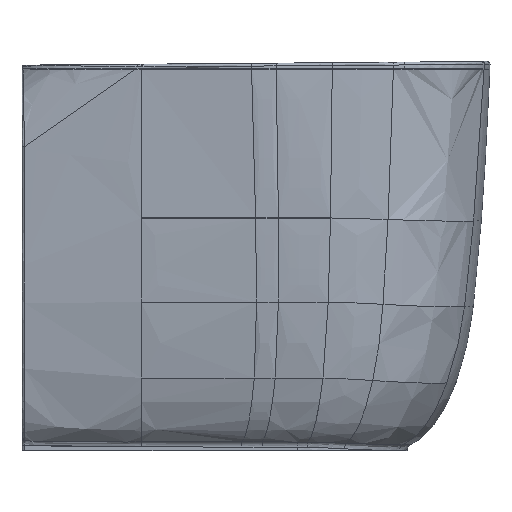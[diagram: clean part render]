
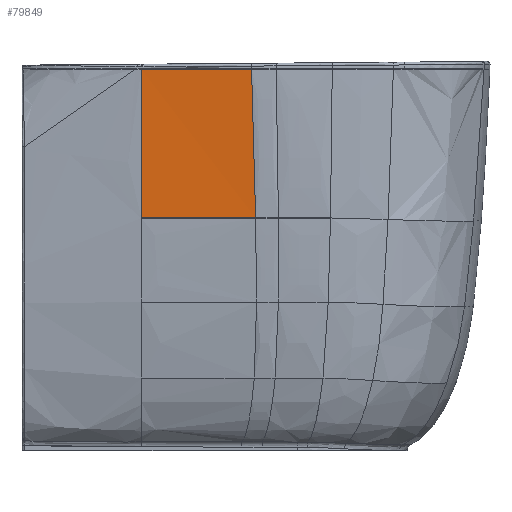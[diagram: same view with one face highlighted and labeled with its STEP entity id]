
A CAD part, front view. The second image highlights one B-rep face of the part: STEP entity #79849.
In plain terms, the highlighted free-form (B-spline) face has degree [5, 5] with [9, 6] control points.
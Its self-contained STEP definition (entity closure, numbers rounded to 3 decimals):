
#79743=CARTESIAN_POINT('Control Point',(250.,-180.,0.042)) ;
#79744=CARTESIAN_POINT('Control Point',(251.52,-179.83,-33.281)) ;
#79745=CARTESIAN_POINT('Control Point',(252.696,-179.24,-66.603)) ;
#79746=CARTESIAN_POINT('Control Point',(253.555,-178.215,-99.912)) ;
#79747=CARTESIAN_POINT('Control Point',(254.174,-176.833,-133.225)) ;
#79748=CARTESIAN_POINT('Control Point',(254.586,-175.089,-166.537)) ;
#79749=CARTESIAN_POINT('Control Point',(225.938,-179.612,0.042)) ;
#79750=CARTESIAN_POINT('Control Point',(227.812,-179.472,-33.281)) ;
#79751=CARTESIAN_POINT('Control Point',(229.341,-178.913,-66.603)) ;
#79752=CARTESIAN_POINT('Control Point',(230.554,-177.92,-99.912)) ;
#79753=CARTESIAN_POINT('Control Point',(231.526,-176.568,-133.225)) ;
#79754=CARTESIAN_POINT('Control Point',(232.293,-174.855,-166.537)) ;
#79755=CARTESIAN_POINT('Control Point',(201.886,-178.617,0.042)) ;
#79756=CARTESIAN_POINT('Control Point',(204.113,-178.557,-33.281)) ;
#79757=CARTESIAN_POINT('Control Point',(205.995,-178.077,-66.603)) ;
#79758=CARTESIAN_POINT('Control Point',(207.561,-177.163,-99.912)) ;
#79759=CARTESIAN_POINT('Control Point',(208.886,-175.89,-133.225)) ;
#79760=CARTESIAN_POINT('Control Point',(210.005,-174.257,-166.537)) ;
#79761=CARTESIAN_POINT('Control Point',(177.869,-177.014,0.042)) ;
#79762=CARTESIAN_POINT('Control Point',(180.446,-177.082,-33.281)) ;
#79763=CARTESIAN_POINT('Control Point',(182.679,-176.73,-66.603)) ;
#79764=CARTESIAN_POINT('Control Point',(184.594,-175.943,-99.912)) ;
#79765=CARTESIAN_POINT('Control Point',(186.269,-174.798,-133.225)) ;
#79766=CARTESIAN_POINT('Control Point',(187.739,-173.292,-166.537)) ;
#79767=CARTESIAN_POINT('Control Point',(141.915,-173.702,0.042)) ;
#79768=CARTESIAN_POINT('Control Point',(145.011,-174.034,-33.281)) ;
#79769=CARTESIAN_POINT('Control Point',(147.763,-173.945,-66.603)) ;
#79770=CARTESIAN_POINT('Control Point',(150.198,-173.423,-99.912)) ;
#79771=CARTESIAN_POINT('Control Point',(152.393,-172.542,-133.225)) ;
#79772=CARTESIAN_POINT('Control Point',(154.382,-171.3,-166.537)) ;
#79773=CARTESIAN_POINT('Control Point',(106.118,-169.044,0.042)) ;
#79774=CARTESIAN_POINT('Control Point',(109.722,-169.747,-33.281)) ;
#79775=CARTESIAN_POINT('Control Point',(112.981,-170.03,-66.603)) ;
#79776=CARTESIAN_POINT('Control Point',(115.923,-169.879,-99.912)) ;
#79777=CARTESIAN_POINT('Control Point',(118.624,-169.368,-133.225)) ;
#79778=CARTESIAN_POINT('Control Point',(121.12,-168.497,-166.537)) ;
#79779=CARTESIAN_POINT('Control Point',(94.186,-167.492,0.042)) ;
#79780=CARTESIAN_POINT('Control Point',(97.958,-168.318,-33.281)) ;
#79781=CARTESIAN_POINT('Control Point',(101.386,-168.725,-66.603)) ;
#79782=CARTESIAN_POINT('Control Point',(104.496,-168.697,-99.912)) ;
#79783=CARTESIAN_POINT('Control Point',(107.366,-168.311,-133.225)) ;
#79784=CARTESIAN_POINT('Control Point',(110.031,-167.563,-166.537)) ;
#79785=CARTESIAN_POINT('Control Point',(82.255,-165.939,0.042)) ;
#79786=CARTESIAN_POINT('Control Point',(86.195,-166.889,-33.281)) ;
#79787=CARTESIAN_POINT('Control Point',(89.791,-167.419,-66.603)) ;
#79788=CARTESIAN_POINT('Control Point',(93.07,-167.515,-99.912)) ;
#79789=CARTESIAN_POINT('Control Point',(96.109,-167.253,-133.225)) ;
#79790=CARTESIAN_POINT('Control Point',(98.942,-166.629,-166.537)) ;
#79791=CARTESIAN_POINT('Control Point',(70.323,-164.387,0.042)) ;
#79792=CARTESIAN_POINT('Control Point',(74.432,-165.46,-33.281)) ;
#79793=CARTESIAN_POINT('Control Point',(78.196,-166.114,-66.603)) ;
#79794=CARTESIAN_POINT('Control Point',(81.644,-166.334,-99.912)) ;
#79795=CARTESIAN_POINT('Control Point',(84.851,-166.195,-133.225)) ;
#79796=CARTESIAN_POINT('Control Point',(87.853,-165.695,-166.537)) ;
#79798=CARTESIAN_POINT('Control Point',(130.,-172.009,-4.231)) ;
#79799=CARTESIAN_POINT('Control Point',(130.,-172.058,-36.779)) ;
#79800=CARTESIAN_POINT('Control Point',(129.999,-171.792,-69.292)) ;
#79801=CARTESIAN_POINT('Control Point',(130.,-171.205,-101.706)) ;
#79802=CARTESIAN_POINT('Control Point',(130.,-170.35,-134.139)) ;
#79803=CARTESIAN_POINT('Control Point',(130.,-169.222,-166.537)) ;
#79804=CARTESIAN_POINT('Vertex',(130.,-172.009,-4.231)) ;
#79806=CARTESIAN_POINT('Vertex',(130.,-169.222,-166.537)) ;
#79810=CARTESIAN_POINT('Control Point',(254.586,-175.089,-166.537)) ;
#79811=CARTESIAN_POINT('Control Point',(232.293,-174.855,-166.537)) ;
#79812=CARTESIAN_POINT('Control Point',(210.005,-174.257,-166.537)) ;
#79813=CARTESIAN_POINT('Control Point',(187.739,-173.292,-166.537)) ;
#79814=CARTESIAN_POINT('Control Point',(162.834,-171.805,-166.537)) ;
#79815=CARTESIAN_POINT('Control Point',(137.982,-169.865,-166.537)) ;
#79816=CARTESIAN_POINT('Control Point',(135.321,-169.654,-166.537)) ;
#79817=CARTESIAN_POINT('Control Point',(132.66,-169.439,-166.537)) ;
#79818=CARTESIAN_POINT('Control Point',(130.,-169.222,-166.537)) ;
#79819=CARTESIAN_POINT('Vertex',(254.586,-175.089,-166.537)) ;
#79823=CARTESIAN_POINT('Control Point',(250.193,-179.975,-4.231)) ;
#79824=CARTESIAN_POINT('Control Point',(251.639,-179.767,-36.699)) ;
#79825=CARTESIAN_POINT('Control Point',(252.761,-179.16,-69.166)) ;
#79826=CARTESIAN_POINT('Control Point',(253.587,-178.144,-101.621)) ;
#79827=CARTESIAN_POINT('Control Point',(254.184,-176.788,-134.079)) ;
#79828=CARTESIAN_POINT('Control Point',(254.586,-175.089,-166.537)) ;
#79829=CARTESIAN_POINT('Vertex',(250.193,-179.975,-4.231)) ;
#79833=CARTESIAN_POINT('Control Point',(250.193,-179.975,-4.231)) ;
#79834=CARTESIAN_POINT('Control Point',(226.176,-179.591,-4.231)) ;
#79835=CARTESIAN_POINT('Control Point',(202.169,-178.606,-4.231)) ;
#79836=CARTESIAN_POINT('Control Point',(178.197,-177.02,-4.231)) ;
#79837=CARTESIAN_POINT('Control Point',(154.189,-174.827,-4.231)) ;
#79838=CARTESIAN_POINT('Control Point',(130.25,-172.038,-4.231)) ;
#79839=CARTESIAN_POINT('Control Point',(130.167,-172.028,-4.231)) ;
#79840=CARTESIAN_POINT('Control Point',(130.083,-172.018,-4.231)) ;
#79841=CARTESIAN_POINT('Control Point',(130.,-172.009,-4.231)) ;
#79844=ORIENTED_EDGE('',*,*,#79808,.T.) ;
#79845=ORIENTED_EDGE('',*,*,#79821,.T.) ;
#79846=ORIENTED_EDGE('',*,*,#79831,.T.) ;
#79847=ORIENTED_EDGE('',*,*,#79842,.T.) ;
#79849=ADVANCED_FACE('Vaso terra Galassia',(#79848),#79742,.T.) ;
#79797=B_SPLINE_CURVE_WITH_KNOTS('',5,(#79798,#79799,#79800,#79801,#79802,#79803),.UNSPECIFIED.,.F.,.U.,(6,6),(0.,230.393),.UNSPECIFIED.) ;
#79809=B_SPLINE_CURVE_WITH_KNOTS('',5,(#79810,#79811,#79812,#79813,#79814,#79815,#79816,#79817,#79818),.UNSPECIFIED.,.F.,.U.,(6,3,6),(0.,115.845,129.738),.UNSPECIFIED.) ;
#79822=B_SPLINE_CURVE_WITH_KNOTS('',5,(#79823,#79824,#79825,#79826,#79827,#79828),.UNSPECIFIED.,.F.,.U.,(6,6),(4.286,167.124),.UNSPECIFIED.) ;
#79832=B_SPLINE_CURVE_WITH_KNOTS('',5,(#79833,#79834,#79835,#79836,#79837,#79838,#79839,#79840,#79841),.UNSPECIFIED.,.F.,.U.,(6,3,6),(0.,115.845,116.249),.UNSPECIFIED.) ;
#79742=B_SPLINE_SURFACE_WITH_KNOTS('',5,5,((#79743,#79744,#79745,#79746,#79747,#79748),(#79749,#79750,#79751,#79752,#79753,#79754),(#79755,#79756,#79757,#79758,#79759,#79760),(#79761,#79762,#79763,#79764,#79765,#79766),(#79767,#79768,#79769,#79770,#79771,#79772),(#79773,#79774,#79775,#79776,#79777,#79778),(#79779,#79780,#79781,#79782,#79783,#79784),(#79785,#79786,#79787,#79788,#79789,#79790),(#79791,#79792,#79793,#79794,#79795,#79796)),.UNSPECIFIED.,.F.,.F.,.U.,(6,3,6),(6,6),(0.,115.845,173.767),(0.,167.124),.UNSPECIFIED.) ;
#79808=EDGE_CURVE('',#79805,#79807,#79797,.T.) ;
#79821=EDGE_CURVE('',#79807,#79820,#79809,.F.) ;
#79831=EDGE_CURVE('',#79820,#79830,#79822,.F.) ;
#79842=EDGE_CURVE('',#79830,#79805,#79832,.T.) ;
#79843=EDGE_LOOP('',(#79844,#79845,#79846,#79847)) ;
#79848=FACE_OUTER_BOUND('',#79843,.T.) ;
#79805=VERTEX_POINT('',#79804) ;
#79807=VERTEX_POINT('',#79806) ;
#79820=VERTEX_POINT('',#79819) ;
#79830=VERTEX_POINT('',#79829) ;
